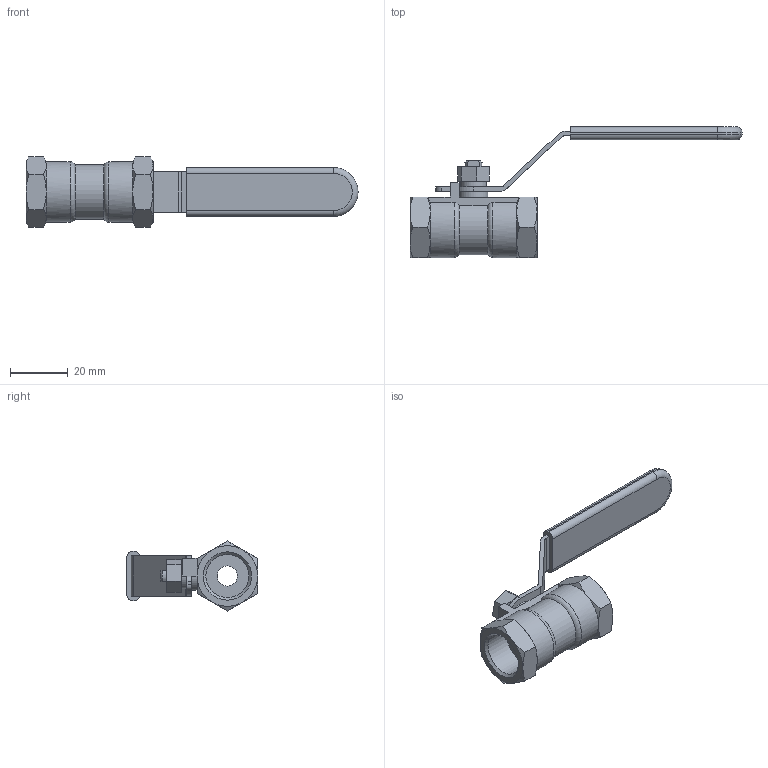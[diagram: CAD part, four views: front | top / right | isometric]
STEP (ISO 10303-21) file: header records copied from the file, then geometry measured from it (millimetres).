
FILE_DESCRIPTION(/* description */ ('Eriks item no: 12427434'),/* implementation_level */ '2;1');
FILE_NAME(/* name */ '7744-DN10-RB-1000PSI-BSP.stp',/* time_stamp */ '2024-02-16T09:49:40+01:00',/* author */ ('roger.thijssen'),/* organization */ (''),/* preprocessor_version */ 'ST-DEVELOPER v19.2',/* originating_system */ 'Autodesk Inventor 2024',/* authorisation */ '');
FILE_SCHEMA (('AUTOMOTIVE_DESIGN { 1 0 10303 214 3 1 1 }'));
Length unit declared in the file: millimetre
Products named in the file (1): Ball valve, 7744-DN10-RB-1000PSI-BSP
Bounding box: 115 x 45.5 x 24.25 mm (x, y, z)
Volume: 16924.2 mm3; surface area: 9446.5 mm2
Topology: 1 solids, 1 shells, 341 faces, 887 edges, 580 vertices
Faces by surface type: plane 217, cylinder 49, bspline 43, cone 28, torus 4
Full cylindrical faces by diameter (mm): 7 x1, 9 x1, 10 x1, 14.95 x2
Entity records: 11074 total; most frequent: CARTESIAN_POINT 2633, ORIENTED_EDGE 1774, DIRECTION 1465, EDGE_CURVE 887, LINE 615, VECTOR 615, VERTEX_POINT 580, AXIS2_PLACEMENT_3D 425
